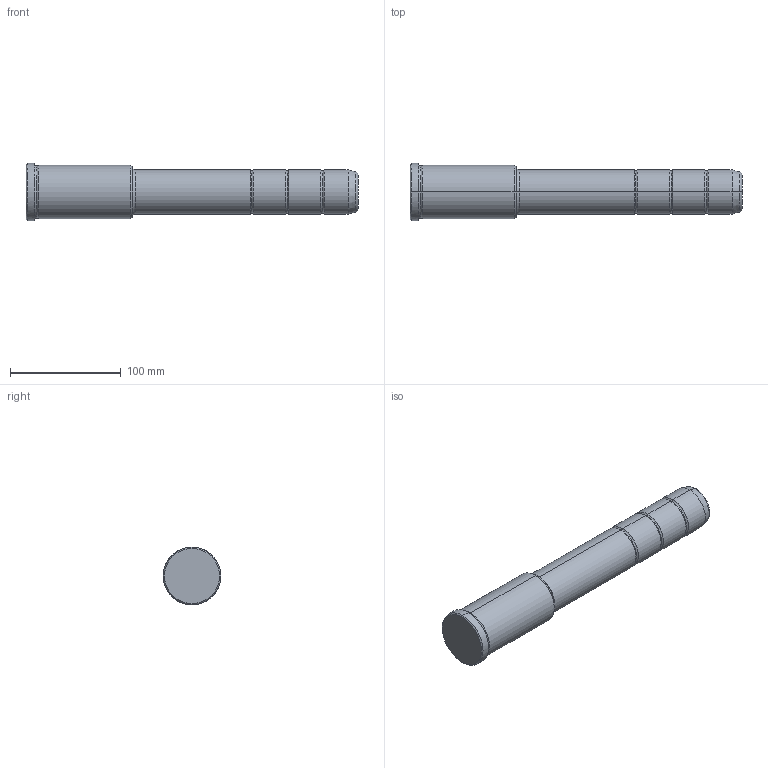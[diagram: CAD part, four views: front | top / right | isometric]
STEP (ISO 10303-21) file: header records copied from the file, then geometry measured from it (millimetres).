
FILE_DESCRIPTION(('CATIA V5 STEP Exchange'),'2;1');
FILE_NAME('C:\Users\Utente\Desktop\IO LAVORO\3D X SITO CF\X SITO\PLASTICA\351\351-40X96X300.stp','2021-10-07T14:02:55+00:00',('none'),('none'),'CATIA Version 5 Release 20 GA (IN-10)','CATIA V5 STEP AP203','none');
FILE_SCHEMA(('CONFIG_CONTROL_DESIGN'));
Length unit declared in the file: millimetre
Products named in the file (1): 351-40X96X300
Bounding box: 300 x 52 x 52 mm (x, y, z)
Volume: 430134.1 mm3; surface area: 43995.4 mm2
Topology: 1 solids, 1 shells, 42 faces, 118 edges, 80 vertices
Faces by surface type: torus 20, cylinder 12, cone 6, plane 4
Entity records: 1472 total; most frequent: CARTESIAN_POINT 353, ORIENTED_EDGE 236, DIRECTION 194, AXIS2_PLACEMENT_3D 135, EDGE_CURVE 118, CIRCLE 92, VERTEX_POINT 80, EDGE_LOOP 44
